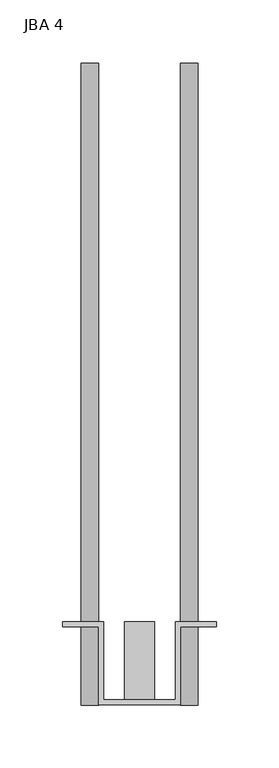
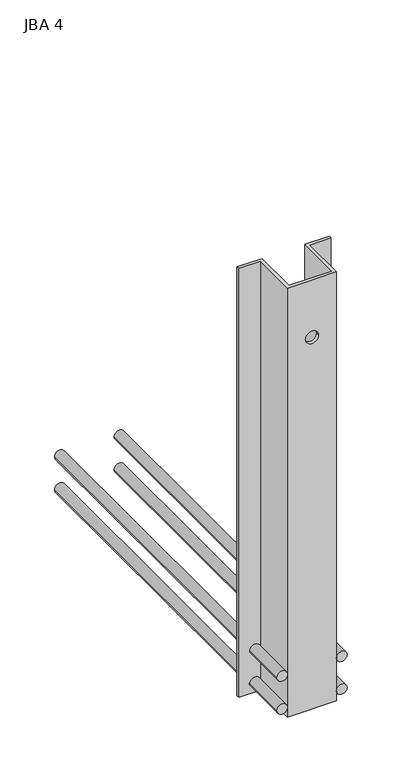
"""IFC4 building model written with IfcOpenShell, lengths in millimetres: fastener geometry, JBA JORDAHL® support corbels_1 : JBA 4."""

from ifc_helpers import new_model, si_unit, point, frame, frame_2d, origin, place, context, project, spatial, polyline, circle_curve, trimmed, segment, composite_curve, outline, extrude, source, transform, mapped, element, save
from ifc_brep_helpers import plane_surface, revolved_surface, advanced_brep


def jba_4_15aaa7ff(model_context):
    return source(origin(), model_context, "Body", "SolidModel", [
        extrude(outline(composite_curve([segment(trimmed(circle_curve(frame_2d((-32.0, -39.5)), 7.0), [point((-32.0, -46.5))], [point((-32.0, -32.5))], False, "CARTESIAN"), True, "CONTINUOUS"), segment(trimmed(circle_curve(frame_2d((-32.0, -39.5)), 7.0), [point((-32.0, -32.5))], [point((-32.0, -46.5))], False, "CARTESIAN"), True, "CONTINUOUS")], self_intersect=False)), frame((0.0, 0.0, 0.0), z_axis=(0.0, 1.0, 0.0), x_axis=(0.0, 0.0, 1.0)), (0.0, 0.0, 1.0), 510.0),
        extrude(outline(composite_curve([segment(trimmed(circle_curve(frame_2d((-32.0, 39.5)), 7.0), [point((-32.0, 32.5))], [point((-32.0, 46.5))], False, "CARTESIAN"), True, "CONTINUOUS"), segment(trimmed(circle_curve(frame_2d((-32.0, 39.5)), 7.0), [point((-32.0, 46.5))], [point((-32.0, 32.5))], False, "CARTESIAN"), True, "CONTINUOUS")], self_intersect=False)), frame((0.0, 0.0, 0.0), z_axis=(0.0, 1.0, 0.0), x_axis=(0.0, 0.0, 1.0)), (0.0, 0.0, 1.0), 510.0),
        extrude(outline(composite_curve([segment(trimmed(circle_curve(frame_2d((-78.0, -39.5)), 7.0), [point((-78.0, -46.5))], [point((-78.0, -32.5))], False, "CARTESIAN"), True, "CONTINUOUS"), segment(trimmed(circle_curve(frame_2d((-78.0, -39.5)), 7.0), [point((-78.0, -32.5))], [point((-78.0, -46.5))], False, "CARTESIAN"), True, "CONTINUOUS")], self_intersect=False)), frame((0.0, 0.0, 0.0), z_axis=(0.0, 1.0, 0.0), x_axis=(0.0, 0.0, 1.0)), (0.0, 0.0, 1.0), 510.0),
        extrude(outline(composite_curve([segment(trimmed(circle_curve(frame_2d((-78.0, 39.5)), 7.0), [point((-78.0, 32.5))], [point((-78.0, 46.5))], False, "CARTESIAN"), True, "CONTINUOUS"), segment(trimmed(circle_curve(frame_2d((-78.0, 39.5)), 7.0), [point((-78.0, 46.5))], [point((-78.0, 32.5))], False, "CARTESIAN"), True, "CONTINUOUS")], self_intersect=False)), frame((0.0, 0.0, 0.0), z_axis=(0.0, 1.0, 0.0), x_axis=(0.0, 0.0, 1.0)), (0.0, 0.0, 1.0), 510.0),
        advanced_brep(
        [(-61.0, 62.0, 508.0), (-32.5, 62.0, 508.0), (-32.5, 0.0, 508.0), (32.5, 0.0, 508.0), (32.5, 62.0, 508.0), (61.0, 62.0, 508.0), (61.0, 66.0, 508.0), (28.5, 66.0, 508.0), (28.5, 4.0, 508.0), (-28.5, 4.0, 508.0), (-28.5, 66.0, 508.0), (-61.0, 66.0, 508.0), (-61.0, 62.0, -92.0), (-61.0, 66.0, -92.0), (-28.5, 66.0, -92.0), (-28.5, 4.0, -92.0), (28.5, 4.0, -92.0), (28.5, 66.0, -92.0), (61.0, 66.0, -92.0), (61.0, 62.0, -92.0), (32.5, 62.0, -92.0), (32.5, 0.0, -92.0), (-32.5, 0.0, -92.0), (-32.5, 62.0, -92.0), (8.5, 0.0, 428.0), (-8.5, 0.0, 428.0), (-8.5, 4.0, 428.0), (8.5, 4.0, 428.0)],
        [
            (0, 1),
            (1, 2),
            (2, 3),
            (3, 4),
            (4, 5),
            (5, 6),
            (6, 7),
            (7, 8),
            (8, 9),
            (9, 10),
            (10, 11),
            (11, 0),
            (12, 13),
            (13, 14),
            (14, 15),
            (15, 16),
            (16, 17),
            (17, 18),
            (18, 19),
            (19, 20),
            (20, 21),
            (21, 22),
            (22, 23),
            (23, 12),
            (0, 12),
            (23, 1),
            (22, 2),
            (21, 3),
            (24, 25, circle_curve(frame((0.0, 0.0, 428.0), z_axis=(0.0, 1.0, 0.0), x_axis=(1.0, 0.0, 0.0)), 8.5)),
            (25, 24, circle_curve(frame((0.0, 0.0, 428.0), z_axis=(0.0, 1.0, 0.0), x_axis=(1.0, 0.0, 0.0)), 8.5)),
            (20, 4),
            (19, 5),
            (18, 6),
            (17, 7),
            (16, 8),
            (15, 9),
            (26, 27, circle_curve(frame((0.0, 4.0, 428.0), z_axis=(0.0, -1.0, 0.0), x_axis=(1.0, 0.0, 0.0)), 8.5)),
            (27, 26, circle_curve(frame((0.0, 4.0, 428.0), z_axis=(0.0, -1.0, 0.0), x_axis=(1.0, 0.0, 0.0)), 8.5)),
            (14, 10),
            (13, 11),
            (24, 27),
            (26, 25),
        ],
        [
            plane_surface(frame((0.0, 66.0, 508.0), z_axis=(0.0, 0.0, 1.0), x_axis=(0.0, -1.0, 0.0))),
            plane_surface(frame((0.0, 66.0, -92.0), z_axis=(0.0, 0.0, -1.0), x_axis=(0.0, -1.0, 0.0))),
            plane_surface(frame((-61.0, 62.0, 508.0), z_axis=(0.0, -1.0, 0.0), x_axis=(0.0, 0.0, -1.0))),
            plane_surface(frame((-32.5, 62.0, 508.0), z_axis=(-1.0, 0.0, 0.0), x_axis=(0.0, 0.0, -1.0))),
            plane_surface(frame((-32.5, 0.0, 508.0), z_axis=(0.0, -1.0, 0.0), x_axis=(0.0, 0.0, -1.0))),
            plane_surface(frame((32.5, 0.0, 508.0), z_axis=(1.0, 0.0, 0.0), x_axis=(0.0, 0.0, -1.0))),
            plane_surface(frame((32.5, 62.0, 508.0), z_axis=(0.0, -1.0, 0.0), x_axis=(0.0, 0.0, -1.0))),
            plane_surface(frame((61.0, 62.0, 508.0), z_axis=(1.0, 0.0, 0.0), x_axis=(0.0, 0.0, -1.0))),
            plane_surface(frame((61.0, 66.0, 508.0), z_axis=(0.0, 1.0, 0.0), x_axis=(0.0, 0.0, -1.0))),
            plane_surface(frame((28.5, 66.0, 508.0), z_axis=(-1.0, 0.0, 0.0), x_axis=(0.0, 0.0, -1.0))),
            plane_surface(frame((28.5, 4.0, 508.0), z_axis=(0.0, 1.0, 0.0), x_axis=(0.0, 0.0, -1.0))),
            plane_surface(frame((-28.5, 4.0, 508.0), z_axis=(1.0, 0.0, 0.0), x_axis=(0.0, 0.0, -1.0))),
            plane_surface(frame((-28.5, 66.0, 508.0), z_axis=(0.0, 1.0, 0.0), x_axis=(0.0, 0.0, -1.0))),
            plane_surface(frame((-61.0, 66.0, 508.0), z_axis=(-1.0, 0.0, 0.0), x_axis=(0.0, 0.0, -1.0))),
            revolved_surface(polyline([(8.5, 0.0, 428.0), (8.5, 4.0, 428.0)]), (0.0, 4.0, 428.0), (0.0, -1.0, 0.0)),
        ],
        [
            (0, [[1, 2, 3, 4, 5, 6, 7, 8, 9, 10, 11, 12]]),
            (1, [[13, 14, 15, 16, 17, 18, 19, 20, 21, 22, 23, 24]]),
            (2, [[-1, 25, -24, 26]]),
            (3, [[-2, -26, -23, 27]]),
            (4, [[-3, -27, -22, 28], [29, 30]]),
            (5, [[-4, -28, -21, 31]]),
            (6, [[-5, -31, -20, 32]]),
            (7, [[-6, -32, -19, 33]]),
            (8, [[-7, -33, -18, 34]]),
            (9, [[-8, -34, -17, 35]]),
            (10, [[-9, -35, -16, 36], [37, 38]]),
            (11, [[-10, -36, -15, 39]]),
            (12, [[-11, -39, -14, 40]]),
            (13, [[-12, -40, -13, -25]]),
            (14, [[41, -37, 42, -29]]),
            (14, [[-41, -30, -42, -38]]),
        ],
    ),
        extrude(outline(composite_curve([segment(trimmed(circle_curve(frame_2d((50.0, 0.0)), 12.0), [point((50.0, -12.0))], [point((50.0, 12.0))], False, "CARTESIAN"), True, "CONTINUOUS"), segment(trimmed(circle_curve(frame_2d((50.0, 0.0)), 12.0), [point((50.0, 12.0))], [point((50.0, -12.0))], False, "CARTESIAN"), True, "CONTINUOUS")], self_intersect=False)), frame((0.0, 4.0, 0.0), z_axis=(0.0, 1.0, 0.0), x_axis=(0.0, 0.0, 1.0)), (0.0, 0.0, 1.0), 62.0),
    ])


if __name__ == "__main__":
    model = new_model("IFC4")
    model_context = context("Model", 3, world=origin())
    ifc_project = project(units=[si_unit("LENGTHUNIT", "METRE", prefix="MILLI")], contexts=[model_context])
    site = spatial("IfcSite", under=ifc_project)
    building = spatial("IfcBuilding", under=site)
    placement = place(None, origin())
    jba_4_shape = jba_4_15aaa7ff(model_context)
    element("IfcFastener", 1, ObjectType="JBA JORDAHL® support corbels_1 : JBA 4", at=placement, inside=building, context=model_context, shape_type="MappedRepresentation", body=[
        mapped(jba_4_shape, transform((0.0, 0.0, 0.0), x_axis=(1.0, 0.0, 0.0), y_axis=(0.0, 1.0, 0.0), z_axis=(0.0, 0.0, 1.0))),
    ])
    save(model, "model.ifc")
